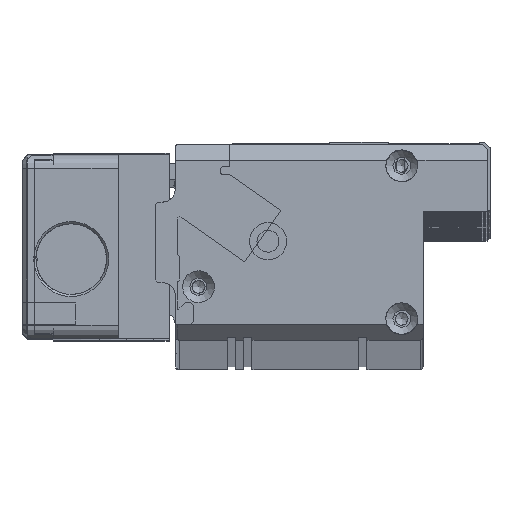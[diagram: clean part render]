
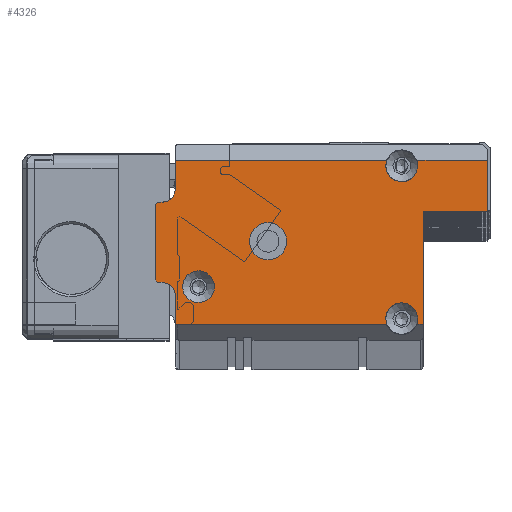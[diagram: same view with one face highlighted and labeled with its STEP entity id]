
A CAD part, top view. The second image highlights one B-rep face of the part: STEP entity #4326.
In plain terms, the highlighted planar face has unit normal (0, 0, 1).
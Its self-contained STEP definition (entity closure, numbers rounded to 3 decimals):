
#1323=FACE_BOUND('',#8655,.T.);
#1324=FACE_BOUND('',#8656,.T.);
#1325=FACE_BOUND('',#8657,.T.);
#2574=CIRCLE('',#35407,3.);
#2575=CIRCLE('',#35408,3.);
#2576=CIRCLE('',#35409,0.5);
#2577=CIRCLE('',#35410,0.5);
#2578=CIRCLE('',#35411,3.);
#2579=CIRCLE('',#35412,2.5);
#2580=CIRCLE('',#35413,0.5);
#2581=CIRCLE('',#35414,0.5);
#2582=CIRCLE('',#35415,2.5);
#2583=CIRCLE('',#35416,3.5);
#4326=ADVANCED_FACE('',(#1323,#1324,#1325),#5388,.T.);
#5388=PLANE('',#35417);
#8655=EDGE_LOOP('',(#23957));
#8656=EDGE_LOOP('',(#23958,#23959,#23960,#23961,#23962,#23963,#23964,#23965,
#23966,#23967,#23968,#23969,#23970,#23971,#23972,#23973,#23974,#23975,#23976,
#23977));
#8657=EDGE_LOOP('',(#23978));
#11685=LINE('',#55917,#14757);
#11686=LINE('',#55919,#14758);
#11687=LINE('',#55923,#14759);
#11688=LINE('',#55927,#14760);
#11689=LINE('',#55929,#14761);
#11690=LINE('',#55933,#14762);
#11691=LINE('',#55935,#14763);
#11692=LINE('',#55939,#14764);
#11693=LINE('',#55943,#14765);
#11694=LINE('',#55947,#14766);
#11695=LINE('',#55951,#14767);
#11696=LINE('',#55953,#14768);
#14757=VECTOR('',#44435,1.);
#14758=VECTOR('',#44436,1.);
#14759=VECTOR('',#44439,1.);
#14760=VECTOR('',#44442,1.);
#14761=VECTOR('',#44443,1.);
#14762=VECTOR('',#44446,1.);
#14763=VECTOR('',#44447,1.);
#14764=VECTOR('',#44450,1.);
#14765=VECTOR('',#44453,1.);
#14766=VECTOR('',#44456,1.);
#14767=VECTOR('',#44459,1.);
#14768=VECTOR('',#44460,1.);
#23957=ORIENTED_EDGE('',*,*,#32178,.T.);
#23958=ORIENTED_EDGE('',*,*,#32179,.T.);
#23959=ORIENTED_EDGE('',*,*,#32180,.T.);
#23960=ORIENTED_EDGE('',*,*,#32181,.T.);
#23961=ORIENTED_EDGE('',*,*,#32182,.T.);
#23962=ORIENTED_EDGE('',*,*,#32183,.T.);
#23963=ORIENTED_EDGE('',*,*,#32184,.T.);
#23964=ORIENTED_EDGE('',*,*,#32185,.T.);
#23965=ORIENTED_EDGE('',*,*,#32186,.T.);
#23966=ORIENTED_EDGE('',*,*,#32187,.T.);
#23967=ORIENTED_EDGE('',*,*,#32188,.T.);
#23968=ORIENTED_EDGE('',*,*,#32189,.T.);
#23969=ORIENTED_EDGE('',*,*,#32190,.T.);
#23970=ORIENTED_EDGE('',*,*,#32191,.T.);
#23971=ORIENTED_EDGE('',*,*,#32192,.T.);
#23972=ORIENTED_EDGE('',*,*,#32193,.T.);
#23973=ORIENTED_EDGE('',*,*,#32194,.T.);
#23974=ORIENTED_EDGE('',*,*,#32195,.T.);
#23975=ORIENTED_EDGE('',*,*,#32196,.T.);
#23976=ORIENTED_EDGE('',*,*,#32197,.T.);
#23977=ORIENTED_EDGE('',*,*,#32198,.T.);
#23978=ORIENTED_EDGE('',*,*,#32199,.T.);
#27492=VERTEX_POINT('',#55913);
#27493=VERTEX_POINT('',#55915);
#27494=VERTEX_POINT('',#55916);
#27495=VERTEX_POINT('',#55918);
#27496=VERTEX_POINT('',#55920);
#27497=VERTEX_POINT('',#55922);
#27498=VERTEX_POINT('',#55924);
#27499=VERTEX_POINT('',#55926);
#27500=VERTEX_POINT('',#55928);
#27501=VERTEX_POINT('',#55930);
#27502=VERTEX_POINT('',#55932);
#27503=VERTEX_POINT('',#55934);
#27504=VERTEX_POINT('',#55936);
#27505=VERTEX_POINT('',#55938);
#27506=VERTEX_POINT('',#55940);
#27507=VERTEX_POINT('',#55942);
#27508=VERTEX_POINT('',#55944);
#27509=VERTEX_POINT('',#55946);
#27510=VERTEX_POINT('',#55948);
#27511=VERTEX_POINT('',#55950);
#27512=VERTEX_POINT('',#55952);
#27513=VERTEX_POINT('',#55955);
#32178=EDGE_CURVE('',#27492,#27492,#2574,.T.);
#32179=EDGE_CURVE('',#27493,#27494,#2575,.T.);
#32180=EDGE_CURVE('',#27494,#27495,#11685,.T.);
#32181=EDGE_CURVE('',#27495,#27496,#11686,.T.);
#32182=EDGE_CURVE('',#27496,#27497,#2576,.T.);
#32183=EDGE_CURVE('',#27497,#27498,#11687,.T.);
#32184=EDGE_CURVE('',#27498,#27499,#2577,.T.);
#32185=EDGE_CURVE('',#27499,#27500,#11688,.T.);
#32186=EDGE_CURVE('',#27500,#27501,#11689,.T.);
#32187=EDGE_CURVE('',#27501,#27502,#2578,.T.);
#32188=EDGE_CURVE('',#27502,#27503,#11690,.T.);
#32189=EDGE_CURVE('',#27503,#27504,#11691,.T.);
#32190=EDGE_CURVE('',#27504,#27505,#2579,.T.);
#32191=EDGE_CURVE('',#27505,#27506,#11692,.T.);
#32192=EDGE_CURVE('',#27506,#27507,#2580,.T.);
#32193=EDGE_CURVE('',#27507,#27508,#11693,.T.);
#32194=EDGE_CURVE('',#27508,#27509,#2581,.T.);
#32195=EDGE_CURVE('',#27509,#27510,#11694,.T.);
#32196=EDGE_CURVE('',#27510,#27511,#2582,.T.);
#32197=EDGE_CURVE('',#27511,#27512,#11695,.T.);
#32198=EDGE_CURVE('',#27512,#27493,#11696,.T.);
#32199=EDGE_CURVE('',#27513,#27513,#2583,.T.);
#35407=AXIS2_PLACEMENT_3D('',#55912,#44431,#44432);
#35408=AXIS2_PLACEMENT_3D('',#55914,#44433,#44434);
#35409=AXIS2_PLACEMENT_3D('',#55921,#44437,#44438);
#35410=AXIS2_PLACEMENT_3D('',#55925,#44440,#44441);
#35411=AXIS2_PLACEMENT_3D('',#55931,#44444,#44445);
#35412=AXIS2_PLACEMENT_3D('',#55937,#44448,#44449);
#35413=AXIS2_PLACEMENT_3D('',#55941,#44451,#44452);
#35414=AXIS2_PLACEMENT_3D('',#55945,#44454,#44455);
#35415=AXIS2_PLACEMENT_3D('',#55949,#44457,#44458);
#35416=AXIS2_PLACEMENT_3D('',#55954,#44461,#44462);
#35417=AXIS2_PLACEMENT_3D('',#55956,#44463,#44464);
#44431=DIRECTION('',(0.,0.,-1.));
#44432=DIRECTION('',(-1.,0.,0.));
#44433=DIRECTION('',(0.,0.,-1.));
#44434=DIRECTION('',(-1.,0.,0.));
#44435=DIRECTION('',(1.,0.,0.));
#44436=DIRECTION('',(0.,1.,0.));
#44437=DIRECTION('',(0.,0.,-1.));
#44438=DIRECTION('',(1.,0.,0.));
#44439=DIRECTION('',(1.,0.,0.));
#44440=DIRECTION('',(0.,0.,1.));
#44441=DIRECTION('',(1.,0.,0.));
#44442=DIRECTION('',(0.,1.,0.));
#44443=DIRECTION('',(-1.,0.,0.));
#44444=DIRECTION('',(0.,0.,-1.));
#44445=DIRECTION('',(-1.,0.,0.));
#44446=DIRECTION('',(-1.,0.,0.));
#44447=DIRECTION('',(0.,-1.,0.));
#44448=DIRECTION('',(0.,0.,-1.));
#44449=DIRECTION('',(1.,0.,0.));
#44450=DIRECTION('',(-1.,0.,0.));
#44451=DIRECTION('',(0.,0.,1.));
#44452=DIRECTION('',(1.,0.,0.));
#44453=DIRECTION('',(0.,-1.,0.));
#44454=DIRECTION('',(0.,0.,1.));
#44455=DIRECTION('',(1.,0.,0.));
#44456=DIRECTION('',(1.,0.,0.));
#44457=DIRECTION('',(0.,0.,-1.));
#44458=DIRECTION('',(1.,0.,0.));
#44459=DIRECTION('',(0.,-1.,0.));
#44460=DIRECTION('',(1.,0.,0.));
#44461=DIRECTION('',(0.,0.,-1.));
#44462=DIRECTION('',(-1.,0.,0.));
#44463=DIRECTION('',(0.,0.,1.));
#44464=DIRECTION('',(-1.,0.,0.));
#55912=CARTESIAN_POINT('',(8.,-26.6,8.));
#55913=CARTESIAN_POINT('',(5.,-26.6,8.));
#55914=CARTESIAN_POINT('',(46.,-32.6,8.));
#55915=CARTESIAN_POINT('',(43.172,-33.6,8.));
#55916=CARTESIAN_POINT('',(48.828,-33.6,8.));
#55917=CARTESIAN_POINT('',(50.,-33.6,8.));
#55918=CARTESIAN_POINT('',(50.,-33.6,8.));
#55919=CARTESIAN_POINT('',(50.,-36.6,8.));
#55920=CARTESIAN_POINT('',(50.,-13.1,8.));
#55921=CARTESIAN_POINT('',(50.5,-13.1,8.));
#55922=CARTESIAN_POINT('',(50.5,-12.6,8.));
#55923=CARTESIAN_POINT('',(50.,-12.6,8.));
#55924=CARTESIAN_POINT('',(61.6,-12.6,8.));
#55925=CARTESIAN_POINT('',(61.6,-12.1,8.));
#55926=CARTESIAN_POINT('',(62.1,-12.1,8.));
#55927=CARTESIAN_POINT('',(62.1,-12.6,8.));
#55928=CARTESIAN_POINT('',(62.1,-3.,8.));
#55929=CARTESIAN_POINT('',(3.7,-3.,8.));
#55930=CARTESIAN_POINT('',(48.828,-3.,8.));
#55931=CARTESIAN_POINT('',(46.,-4.,8.));
#55932=CARTESIAN_POINT('',(43.172,-3.,8.));
#55933=CARTESIAN_POINT('',(3.7,-3.,8.));
#55934=CARTESIAN_POINT('',(3.7,-3.,8.));
#55935=CARTESIAN_POINT('',(3.7,0.,8.));
#55936=CARTESIAN_POINT('',(3.7,-8.3,8.));
#55937=CARTESIAN_POINT('',(1.2,-8.3,8.));
#55938=CARTESIAN_POINT('',(1.2,-10.8,8.));
#55939=CARTESIAN_POINT('',(3.7,-10.8,8.));
#55940=CARTESIAN_POINT('',(0.5,-10.8,8.));
#55941=CARTESIAN_POINT('',(0.5,-11.3,8.));
#55942=CARTESIAN_POINT('',(0.,-11.3,8.));
#55943=CARTESIAN_POINT('',(0.,-10.8,8.));
#55944=CARTESIAN_POINT('',(0.,-25.3,8.));
#55945=CARTESIAN_POINT('',(0.5,-25.3,8.));
#55946=CARTESIAN_POINT('',(0.5,-25.8,8.));
#55947=CARTESIAN_POINT('',(0.,-25.8,8.));
#55948=CARTESIAN_POINT('',(1.2,-25.8,8.));
#55949=CARTESIAN_POINT('',(1.2,-28.3,8.));
#55950=CARTESIAN_POINT('',(3.7,-28.3,8.));
#55951=CARTESIAN_POINT('',(3.7,-25.8,8.));
#55952=CARTESIAN_POINT('',(3.7,-33.6,8.));
#55953=CARTESIAN_POINT('',(50.,-33.6,8.));
#55954=CARTESIAN_POINT('',(21.,-18.1,8.));
#55955=CARTESIAN_POINT('',(17.5,-18.1,8.));
#55956=CARTESIAN_POINT('',(0.,0.,8.));
